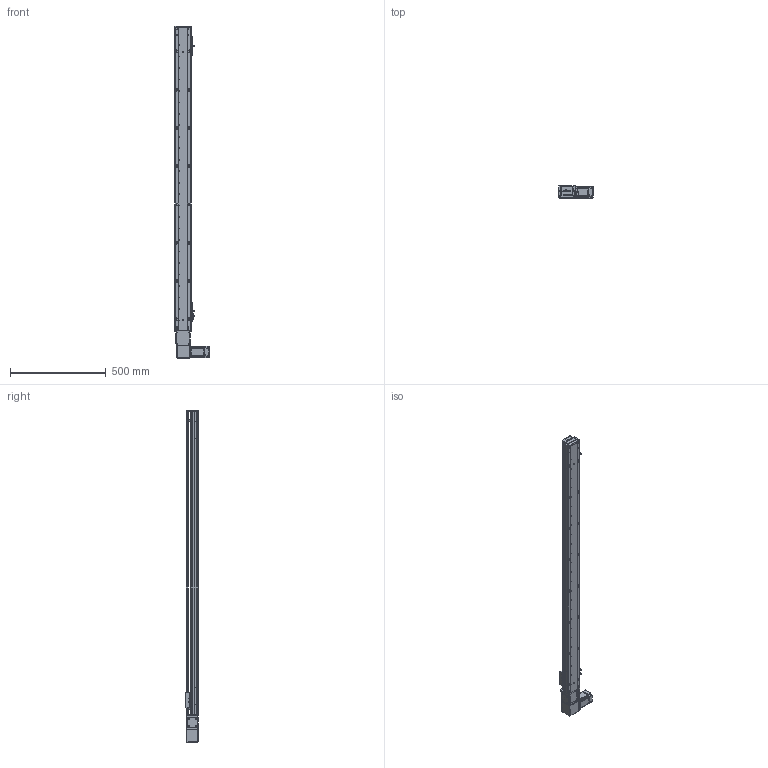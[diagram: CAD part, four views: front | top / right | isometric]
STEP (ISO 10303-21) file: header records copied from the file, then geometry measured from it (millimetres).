
FILE_DESCRIPTION (( 'STEP AP203' ), '1' );
FILE_NAME ('RY80-T-300-RK.SLDASM_1400.step', '2021-03-01T02:07:55', ( '盈信电脑' ), ( '东莞市道滘镇水果街19号' ), 'SwSTEP 2.0', 'SolidWorks 2012', '' );
FILE_SCHEMA (( 'CONFIG_CONTROL_DESIGN' ));
Length unit declared in the file: millimetre
Products named in the file (20): RY100-T粣創揤踡裔; 滅袉蝶18-10; RY80-T-300-RK.SLDASM_1400; RY80-T肮祭謫俋欶; RY80-T粣創揤踡輸; RY80-T翋肮祭謫裔啣; RY80-T-M4蹟翐; RY80-T肮祭湍揤輸1; RY80-T萇儂假蚾啣; RY80-T肮祭湍揤輸2; RY80-T-翋肮祭謫釱; RY80俋离覜茼え; 1; 覜茼ん672; 侂狟200W萇儂; RY80-T綴裔啣; 672嫖萇羲壽假蚾釱; RY80-T-300-RK倰第奻裔啣_1400; RY80-T-300-RK倰第菁釱_1400; RY80-T肮祭謫臏賑輸
Assembly tree (25 placements, depth 3):
  RY80-T-300-RK.SLDASM_1400
    RY80-T-300-RK倰第菁釱_1400
    RY80-T肮祭謫臏賑輸
    RY80-T-300-RK倰第奻裔啣_1400
    RY80-T綴裔啣
    672嫖萇羲壽假蚾釱  x2
    覜茼ん672  x3
    RY80俋离覜茼え
    侂狟200W萇儂
      1
    RY80-T-翋肮祭謫釱
    RY80-T萇儂假蚾啣
    RY80-T肮祭湍揤輸1
    RY80-T肮祭湍揤輸2
    RY80-T粣創揤踡輸
    RY80-T-M4蹟翐  x2
    RY80-T翋肮祭謫裔啣  x2
    RY80-T肮祭謫俋欶
    滅袉蝶18-10  x2
    RY100-T粣創揤踡裔
Bounding box: 180 x 65 x 1735 mm (x, y, z)
Volume: 2711754.2 mm3; surface area: 1147012.7 mm2
Topology: 24 solids, 24 shells, 2541 faces, 7014 edges, 4559 vertices
Faces by surface type: plane 1340, cylinder 995, cone 150, bspline 56
Entity records: 80448 total; most frequent: CARTESIAN_POINT 19671, ORIENTED_EDGE 12472, DIRECTION 11724, EDGE_CURVE 6236, VERTEX_POINT 4100, AXIS2_PLACEMENT_3D 3969, LINE 3786, VECTOR 3786
